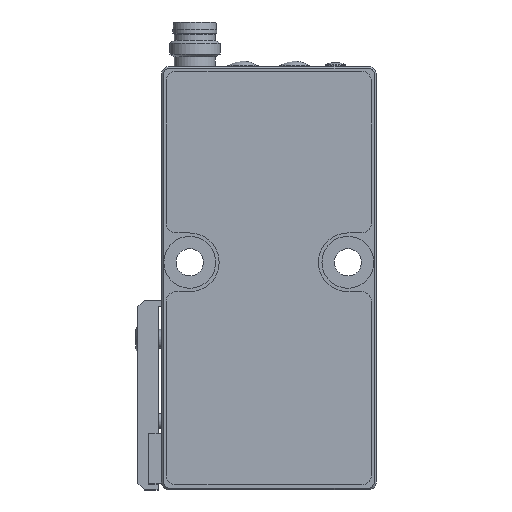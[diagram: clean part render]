
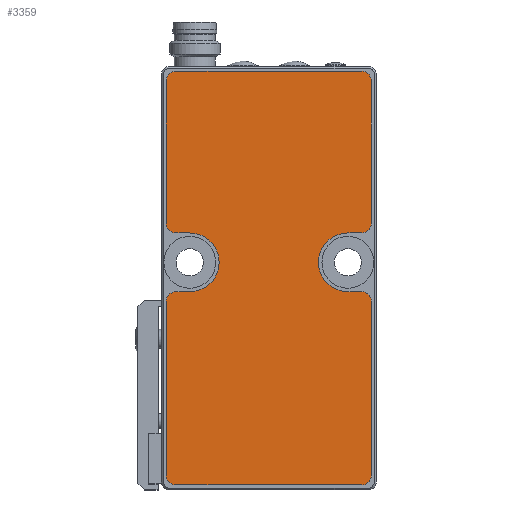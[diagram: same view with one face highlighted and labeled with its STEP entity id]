
A CAD part, left-side view. The second image highlights one B-rep face of the part: STEP entity #3359.
In plain terms, the highlighted planar face has unit normal (-1, 0, 0).
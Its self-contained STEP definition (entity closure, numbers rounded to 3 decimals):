
#132=LINE('',#4812,#334);
#136=LINE('',#4824,#338);
#140=LINE('',#4836,#342);
#144=LINE('',#4848,#346);
#148=LINE('',#4860,#350);
#152=LINE('',#4872,#354);
#156=LINE('',#4884,#358);
#160=LINE('',#4896,#362);
#164=LINE('',#4908,#366);
#170=LINE('',#4928,#372);
#334=VECTOR('',#4089,1000.);
#338=VECTOR('',#4101,1000.);
#342=VECTOR('',#4113,1000.);
#346=VECTOR('',#4125,1000.);
#350=VECTOR('',#4137,1000.);
#354=VECTOR('',#4149,1000.);
#358=VECTOR('',#4161,1000.);
#362=VECTOR('',#4173,1000.);
#366=VECTOR('',#4185,1000.);
#372=VECTOR('',#4207,1000.);
#500=PLANE('',#3631);
#967=ORIENTED_EDGE('',*,*,#1407,.F.);
#968=ORIENTED_EDGE('',*,*,#1410,.F.);
#969=ORIENTED_EDGE('',*,*,#1408,.T.);
#970=ORIENTED_EDGE('',*,*,#1400,.F.);
#971=ORIENTED_EDGE('',*,*,#1397,.T.);
#972=ORIENTED_EDGE('',*,*,#1394,.F.);
#973=ORIENTED_EDGE('',*,*,#1391,.T.);
#974=ORIENTED_EDGE('',*,*,#1388,.F.);
#975=ORIENTED_EDGE('',*,*,#1385,.T.);
#976=ORIENTED_EDGE('',*,*,#1382,.F.);
#977=ORIENTED_EDGE('',*,*,#1379,.F.);
#978=ORIENTED_EDGE('',*,*,#1376,.F.);
#979=ORIENTED_EDGE('',*,*,#1373,.T.);
#980=ORIENTED_EDGE('',*,*,#1370,.F.);
#981=ORIENTED_EDGE('',*,*,#1367,.T.);
#982=ORIENTED_EDGE('',*,*,#1364,.F.);
#983=ORIENTED_EDGE('',*,*,#1361,.T.);
#984=ORIENTED_EDGE('',*,*,#1358,.F.);
#985=ORIENTED_EDGE('',*,*,#1355,.T.);
#986=ORIENTED_EDGE('',*,*,#1352,.F.);
#1352=EDGE_CURVE('',#1630,#1632,#132,.T.);
#1355=EDGE_CURVE('',#1634,#1632,#1814,.T.);
#1358=EDGE_CURVE('',#1634,#1636,#136,.T.);
#1361=EDGE_CURVE('',#1638,#1636,#1816,.T.);
#1364=EDGE_CURVE('',#1638,#1640,#140,.T.);
#1367=EDGE_CURVE('',#1642,#1640,#1818,.T.);
#1370=EDGE_CURVE('',#1642,#1644,#144,.T.);
#1373=EDGE_CURVE('',#1646,#1644,#1820,.T.);
#1376=EDGE_CURVE('',#1646,#1648,#148,.T.);
#1379=EDGE_CURVE('',#1648,#1650,#1822,.T.);
#1382=EDGE_CURVE('',#1650,#1652,#152,.T.);
#1385=EDGE_CURVE('',#1654,#1652,#1824,.T.);
#1388=EDGE_CURVE('',#1654,#1656,#156,.T.);
#1391=EDGE_CURVE('',#1658,#1656,#1826,.T.);
#1394=EDGE_CURVE('',#1658,#1660,#160,.T.);
#1397=EDGE_CURVE('',#1662,#1660,#1828,.T.);
#1400=EDGE_CURVE('',#1662,#1664,#164,.T.);
#1407=EDGE_CURVE('',#1668,#1630,#1832,.T.);
#1408=EDGE_CURVE('',#1669,#1664,#1833,.T.);
#1410=EDGE_CURVE('',#1669,#1668,#170,.T.);
#1630=VERTEX_POINT('',#4810);
#1632=VERTEX_POINT('',#4813);
#1634=VERTEX_POINT('',#4819);
#1636=VERTEX_POINT('',#4825);
#1638=VERTEX_POINT('',#4831);
#1640=VERTEX_POINT('',#4837);
#1642=VERTEX_POINT('',#4843);
#1644=VERTEX_POINT('',#4849);
#1646=VERTEX_POINT('',#4855);
#1648=VERTEX_POINT('',#4861);
#1650=VERTEX_POINT('',#4867);
#1652=VERTEX_POINT('',#4873);
#1654=VERTEX_POINT('',#4879);
#1656=VERTEX_POINT('',#4885);
#1658=VERTEX_POINT('',#4891);
#1660=VERTEX_POINT('',#4897);
#1662=VERTEX_POINT('',#4903);
#1664=VERTEX_POINT('',#4909);
#1668=VERTEX_POINT('',#4921);
#1669=VERTEX_POINT('',#4925);
#1814=CIRCLE('',#3584,1.5);
#1816=CIRCLE('',#3588,1.5);
#1818=CIRCLE('',#3592,1.5);
#1820=CIRCLE('',#3596,1.5);
#1822=CIRCLE('',#3600,4.65);
#1824=CIRCLE('',#3604,1.5);
#1826=CIRCLE('',#3608,1.5);
#1828=CIRCLE('',#3612,1.5);
#1832=CIRCLE('',#3619,4.65);
#1833=CIRCLE('',#3621,1.5);
#1997=EDGE_LOOP('',(#967,#968,#969,#970,#971,#972,#973,#974,#975,#976,#977,
#978,#979,#980,#981,#982,#983,#984,#985,#986));
#2219=FACE_BOUND('',#1997,.T.);
#3359=ADVANCED_FACE('',(#2219),#500,.T.);
#3584=AXIS2_PLACEMENT_3D('',#4818,#4094,#4095);
#3588=AXIS2_PLACEMENT_3D('',#4830,#4106,#4107);
#3592=AXIS2_PLACEMENT_3D('',#4842,#4118,#4119);
#3596=AXIS2_PLACEMENT_3D('',#4854,#4130,#4131);
#3600=AXIS2_PLACEMENT_3D('',#4866,#4142,#4143);
#3604=AXIS2_PLACEMENT_3D('',#4878,#4154,#4155);
#3608=AXIS2_PLACEMENT_3D('',#4890,#4166,#4167);
#3612=AXIS2_PLACEMENT_3D('',#4902,#4178,#4179);
#3619=AXIS2_PLACEMENT_3D('',#4922,#4198,#4199);
#3621=AXIS2_PLACEMENT_3D('',#4924,#4202,#4203);
#3631=AXIS2_PLACEMENT_3D('',#4943,#4227,#4228);
#4089=DIRECTION('',(0.,1.,0.));
#4094=DIRECTION('',(-1.,0.,0.));
#4095=DIRECTION('',(0.,0.,1.));
#4101=DIRECTION('',(0.,0.,1.));
#4106=DIRECTION('',(-1.,0.,0.));
#4107=DIRECTION('',(0.,0.,1.));
#4113=DIRECTION('',(0.,-1.,0.));
#4118=DIRECTION('',(-1.,0.,0.));
#4119=DIRECTION('',(0.,0.,1.));
#4125=DIRECTION('',(0.,0.,-1.));
#4130=DIRECTION('',(-1.,0.,0.));
#4131=DIRECTION('',(0.,0.,1.));
#4137=DIRECTION('',(0.,1.,0.));
#4142=DIRECTION('',(-1.,0.,0.));
#4143=DIRECTION('',(0.,0.,1.));
#4149=DIRECTION('',(0.,-1.,0.));
#4154=DIRECTION('',(-1.,0.,0.));
#4155=DIRECTION('',(0.,0.,1.));
#4161=DIRECTION('',(0.,0.,-1.));
#4166=DIRECTION('',(-1.,0.,0.));
#4167=DIRECTION('',(0.,0.,1.));
#4173=DIRECTION('',(0.,1.,0.));
#4178=DIRECTION('',(-1.,0.,0.));
#4179=DIRECTION('',(0.,0.,1.));
#4185=DIRECTION('',(0.,0.,1.));
#4198=DIRECTION('',(-1.,0.,0.));
#4199=DIRECTION('',(0.,0.,1.));
#4202=DIRECTION('',(-1.,0.,0.));
#4203=DIRECTION('',(0.,0.,1.));
#4207=DIRECTION('',(0.,-1.,0.));
#4227=DIRECTION('',(-1.,0.,0.));
#4228=DIRECTION('',(0.,0.,-1.));
#4810=CARTESIAN_POINT('',(-16.4,12.5,41.65));
#4812=CARTESIAN_POINT('',(-16.4,16.1,41.65));
#4813=CARTESIAN_POINT('',(-16.4,14.7,41.65));
#4818=CARTESIAN_POINT('',(-16.4,14.7,43.15));
#4819=CARTESIAN_POINT('',(-16.4,16.2,43.15));
#4824=CARTESIAN_POINT('',(-16.4,16.2,67.1));
#4825=CARTESIAN_POINT('',(-16.4,16.2,65.7));
#4830=CARTESIAN_POINT('',(-16.4,14.7,65.7));
#4831=CARTESIAN_POINT('',(-16.4,14.7,67.2));
#4836=CARTESIAN_POINT('',(-16.4,16.1,67.2));
#4837=CARTESIAN_POINT('',(-16.4,-14.7,67.2));
#4842=CARTESIAN_POINT('',(-16.4,-14.7,65.7));
#4843=CARTESIAN_POINT('',(-16.4,-16.2,65.7));
#4848=CARTESIAN_POINT('',(-16.4,-16.2,67.1));
#4849=CARTESIAN_POINT('',(-16.4,-16.2,43.15));
#4854=CARTESIAN_POINT('',(-16.4,-14.7,43.15));
#4855=CARTESIAN_POINT('',(-16.4,-14.7,41.65));
#4860=CARTESIAN_POINT('',(-16.4,16.1,41.65));
#4861=CARTESIAN_POINT('',(-16.4,-12.5,41.65));
#4866=CARTESIAN_POINT('',(-16.4,-12.5,37.));
#4867=CARTESIAN_POINT('',(-16.4,-12.5,32.35));
#4872=CARTESIAN_POINT('',(-16.4,16.1,32.35));
#4873=CARTESIAN_POINT('',(-16.4,-14.7,32.35));
#4878=CARTESIAN_POINT('',(-16.4,-14.7,30.85));
#4879=CARTESIAN_POINT('',(-16.4,-16.2,30.85));
#4884=CARTESIAN_POINT('',(-16.4,-16.2,67.1));
#4885=CARTESIAN_POINT('',(-16.4,-16.2,3.3));
#4890=CARTESIAN_POINT('',(-16.4,-14.7,3.3));
#4891=CARTESIAN_POINT('',(-16.4,-14.7,1.8));
#4896=CARTESIAN_POINT('',(-16.4,16.1,1.8));
#4897=CARTESIAN_POINT('',(-16.4,14.7,1.8));
#4902=CARTESIAN_POINT('',(-16.4,14.7,3.3));
#4903=CARTESIAN_POINT('',(-16.4,16.2,3.3));
#4908=CARTESIAN_POINT('',(-16.4,16.2,67.1));
#4909=CARTESIAN_POINT('',(-16.4,16.2,30.85));
#4921=CARTESIAN_POINT('',(-16.4,12.5,32.35));
#4922=CARTESIAN_POINT('',(-16.4,12.5,37.));
#4924=CARTESIAN_POINT('',(-16.4,14.7,30.85));
#4925=CARTESIAN_POINT('',(-16.4,14.7,32.35));
#4928=CARTESIAN_POINT('',(-16.4,16.1,32.35));
#4943=CARTESIAN_POINT('',(-16.4,16.1,67.1));
